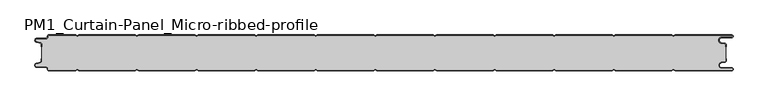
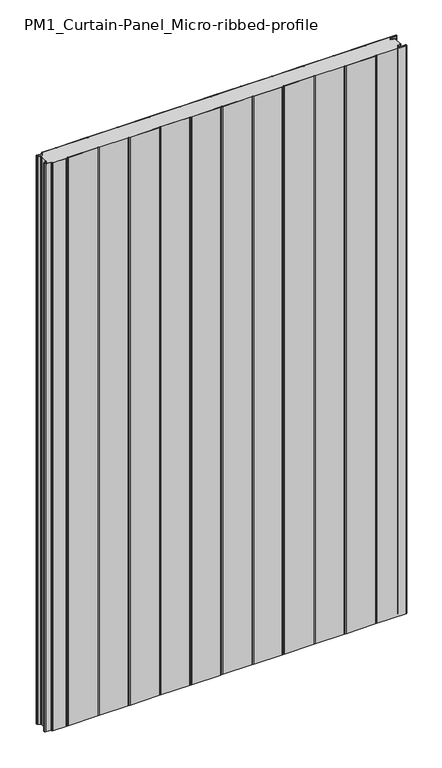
"""IFC4 building model written with IfcOpenShell, lengths in millimetres: plate geometry, PM1_Curtain-Panel_Micro-ribbed-profile : ACH_PM1_Stone-wool-Panel_60M."""

from ifc_helpers import new_model, si_unit, point, frame_2d, origin, origin_with_axes, place, context, project, spatial, polyline, circle_curve, trimmed, segment, composite_curve, outline, extrude, source, transform, mapped, element, save


def pm1_curtain_panel_micro_ribbed_profile_64cba3bc(model_context):
    return source(origin(), model_context, "Body", "SweptSolid", [
        extrude(outline(composite_curve([segment(trimmed(circle_curve(frame_2d((-577.0, -15.878557)), 2.0), [point((-575.0, -15.878557))], [point((-576.5500978, -13.9298169))], True, "CARTESIAN"), True, "CONTINUOUS"), segment(polyline([(-576.5500978, -13.9298169), (-582.7098239, -12.507732)]), True, "CONTINUOUS"), segment(trimmed(circle_curve(frame_2d((-581.9, -9.0)), 3.6), [point((-582.7098239, -12.507732))], [point((-581.9, -5.4))], False, "CARTESIAN"), True, "CONTINUOUS"), segment(polyline([(-581.9, -5.4), (-566.4, -5.4)]), True, "CONTINUOUS"), segment(trimmed(circle_curve(frame_2d((-566.4, -3.4)), 2.0), [point((-566.4, -5.4))], [point((-564.4, -3.4))], True, "CARTESIAN"), True, "CONTINUOUS"), segment(polyline([(-564.4, -3.4), (-564.4, -2.0)]), True, "CONTINUOUS"), segment(trimmed(circle_curve(frame_2d((-562.4, -2.0)), 2.0), [point((-564.4, -2.0))], [point((-562.4, 0.0))], False, "CARTESIAN"), True, "CONTINUOUS"), segment(polyline([(-562.4, 0.0), (-517.0999995, 0.0), (-514.4, -1.5588455), (-511.7000005, 0.0), (-417.0999995, 0.0), (-414.4, -1.5588455), (-411.7000005, 0.0), (-317.0999995, 0.0), (-314.4, -1.5588455), (-311.7000005, 0.0), (-217.0999995, 0.0), (-214.4, -1.5588455), (-211.7000005, 0.0), (-117.0999995, 0.0), (-114.4, -1.5588455), (-111.7000005, 0.0), (-17.0999995, 0.0), (-14.4, -1.5588455), (-11.7000005, 0.0), (82.9000005, 0.0), (85.6, -1.5588455), (88.2999995, 0.0), (182.9000005, 0.0), (185.6, -1.5588455), (188.2999995, 0.0), (282.9000005, 0.0), (285.6, -1.5588455), (288.2999995, 0.0), (382.9000005, 0.0), (385.6, -1.5588455), (388.2999995, 0.0), (482.9000005, 0.0), (485.6, -1.5588455), (488.2999995, 0.0), (583.1, 0.0)]), True, "CONTINUOUS"), segment(trimmed(circle_curve(frame_2d((583.1, -2.5)), 2.5), [point((583.1, 0.0))], [point((583.1, -5.0))], False, "CARTESIAN"), True, "CONTINUOUS"), segment(polyline([(583.1, -5.0), (566.1, -5.0)]), True, "CONTINUOUS"), segment(trimmed(circle_curve(frame_2d((566.1, -9.0)), 4.0), [point((566.1, -5.0))], [point((565.405407, -12.939231))], True, "CARTESIAN"), True, "CONTINUOUS"), segment(polyline([(565.405407, -12.939231), (571.8514855, -14.0758491)]), True, "CONTINUOUS"), segment(trimmed(circle_curve(frame_2d((571.4, -16.6363492)), 2.6), [point((571.8514855, -14.0758491))], [point((574.0, -16.6363492))], False, "CARTESIAN"), True, "CONTINUOUS"), segment(polyline([(574.0, -16.6363492), (574.0, -20.0), (573.2, -20.0), (573.2, -16.6363492)]), True, "CONTINUOUS"), segment(trimmed(circle_curve(frame_2d((571.4, -16.6363492)), 1.8), [point((573.2, -16.6363492))], [point((571.7125669, -14.8636953))], True, "CARTESIAN"), True, "CONTINUOUS"), segment(polyline([(571.7125669, -14.8636953), (565.2664884, -13.7270772)]), True, "CONTINUOUS"), segment(trimmed(circle_curve(frame_2d((566.1, -9.0)), 4.8), [point((565.2664884, -13.7270772))], [point((566.1, -4.2))], False, "CARTESIAN"), True, "CONTINUOUS"), segment(polyline([(566.1, -4.2), (583.1, -4.2)]), True, "CONTINUOUS"), segment(trimmed(circle_curve(frame_2d((583.1, -2.5)), 1.7), [point((583.1, -4.2))], [point((583.1, -0.8))], True, "CARTESIAN"), True, "CONTINUOUS"), segment(polyline([(583.1, -0.8), (488.5143588, -0.8), (485.6, -2.482606), (482.6856412, -0.8), (388.5143588, -0.8), (385.6, -2.482606), (382.6856412, -0.8), (288.5143588, -0.8), (285.6, -2.482606), (282.6856412, -0.8), (188.5143588, -0.8), (185.6, -2.482606), (182.6856412, -0.8), (88.5143588, -0.8), (85.6, -2.482606), (82.6856412, -0.8), (-11.4856412, -0.8), (-14.4, -2.482606), (-17.3143588, -0.8), (-111.4856412, -0.8), (-114.4, -2.482606), (-117.3143588, -0.8), (-211.4856412, -0.8), (-214.4, -2.482606), (-217.3143588, -0.8), (-311.4856412, -0.8), (-314.4, -2.482606), (-317.3143588, -0.8), (-411.4856412, -0.8), (-414.4, -2.482606), (-417.3143588, -0.8), (-511.4856412, -0.8), (-514.4, -2.482606), (-517.3143588, -0.8), (-562.4, -0.8)]), True, "CONTINUOUS"), segment(trimmed(circle_curve(frame_2d((-562.4, -2.0)), 1.2), [point((-562.4, -0.8))], [point((-563.6, -2.0))], True, "CARTESIAN"), True, "CONTINUOUS"), segment(polyline([(-563.6, -2.0), (-563.6, -3.4)]), True, "CONTINUOUS"), segment(trimmed(circle_curve(frame_2d((-566.4, -3.4)), 2.8), [point((-563.6, -3.4))], [point((-566.4, -6.2))], False, "CARTESIAN"), True, "CONTINUOUS"), segment(polyline([(-566.4, -6.2), (-581.9, -6.2)]), True, "CONTINUOUS"), segment(trimmed(circle_curve(frame_2d((-581.9, -9.0)), 2.8), [point((-581.9, -6.2))], [point((-582.529863, -11.7282362))], True, "CARTESIAN"), True, "CONTINUOUS"), segment(polyline([(-582.529863, -11.7282362), (-576.370137, -13.150321)]), True, "CONTINUOUS"), segment(trimmed(circle_curve(frame_2d((-577.0, -15.878557)), 2.8), [point((-576.370137, -13.150321))], [point((-574.2, -15.878557))], False, "CARTESIAN"), True, "CONTINUOUS"), segment(polyline([(-574.2, -15.878557), (-574.2, -20.0), (-575.0, -20.0), (-575.0, -15.878557)]), True, "CONTINUOUS")], self_intersect=False)), origin_with_axes(), (0.0, 0.0, 1.0), 1945.7507136),
        extrude(outline(composite_curve([segment(polyline([(-574.2, -44.1214426), (-574.2, -15.8785573)]), True, "CONTINUOUS"), segment(trimmed(circle_curve(frame_2d((-577.0, -15.8785573)), 2.8), [point((-574.2, -15.8785573))], [point((-576.370137, -13.1503212))], True, "CARTESIAN"), True, "CONTINUOUS"), segment(polyline([(-576.370137, -13.1503212), (-582.5298631, -11.7282362)]), True, "CONTINUOUS"), segment(trimmed(circle_curve(frame_2d((-581.9, -9.0)), 2.8), [point((-582.5298631, -11.7282362))], [point((-581.9, -6.2))], False, "CARTESIAN"), True, "CONTINUOUS"), segment(polyline([(-581.9, -6.2), (-566.4000001, -6.2)]), True, "CONTINUOUS"), segment(trimmed(circle_curve(frame_2d((-566.4000001, -3.4)), 2.8), [point((-566.4000001, -6.2))], [point((-563.6000001, -3.4))], True, "CARTESIAN"), True, "CONTINUOUS"), segment(polyline([(-563.6000001, -3.4), (-563.6000001, -2.0)]), True, "CONTINUOUS"), segment(trimmed(circle_curve(frame_2d((-562.4000001, -2.0)), 1.2), [point((-563.6000001, -2.0))], [point((-562.4000001, -0.8))], False, "CARTESIAN"), True, "CONTINUOUS"), segment(polyline([(-562.4000001, -0.8), (-517.3143589, -0.8), (-514.4000001, -2.482606), (-511.4856412, -0.8), (-417.3143589, -0.8), (-414.4000001, -2.482606), (-411.4856412, -0.8), (-317.3143589, -0.8), (-314.4000001, -2.482606), (-311.4856412, -0.8), (-217.3143589, -0.8), (-214.4000001, -2.482606), (-211.4856412, -0.8), (-117.3143589, -0.8), (-114.4000001, -2.482606), (-111.4856412, -0.8), (-17.3143589, -0.8), (-14.4000001, -2.482606), (-11.4856412, -0.8), (82.6856411, -0.8), (85.5999999, -2.482606), (88.5143588, -0.8), (182.6856411, -0.8), (185.5999999, -2.482606), (188.5143588, -0.8), (282.6856411, -0.8), (285.5999999, -2.482606), (288.5143588, -0.8), (382.6856411, -0.8), (385.5999999, -2.482606), (388.5143588, -0.8), (482.6856411, -0.8), (485.6, -2.482606), (488.5143588, -0.8), (583.1, -0.8)]), True, "CONTINUOUS"), segment(trimmed(circle_curve(frame_2d((583.1, -2.5)), 1.7), [point((583.1, -0.8))], [point((583.1, -4.2))], False, "CARTESIAN"), True, "CONTINUOUS"), segment(polyline([(583.1, -4.2), (566.1, -4.2)]), True, "CONTINUOUS"), segment(trimmed(circle_curve(frame_2d((566.1, -9.0)), 4.8), [point((566.1, -4.2))], [point((565.2664883, -13.7270771))], True, "CARTESIAN"), True, "CONTINUOUS"), segment(polyline([(565.2664883, -13.7270771), (571.7125668, -14.8636953)]), True, "CONTINUOUS"), segment(trimmed(circle_curve(frame_2d((571.4, -16.6363492)), 1.8), [point((571.7125668, -14.8636953))], [point((573.2, -16.6363492))], False, "CARTESIAN"), True, "CONTINUOUS"), segment(polyline([(573.2, -16.6363492), (573.2, -43.3636508)]), True, "CONTINUOUS"), segment(trimmed(circle_curve(frame_2d((571.4, -43.3636508)), 1.8), [point((573.2, -43.3636508))], [point((571.7125668, -45.1363047))], False, "CARTESIAN"), True, "CONTINUOUS"), segment(polyline([(571.7125668, -45.1363047), (565.2664883, -46.2729229)]), True, "CONTINUOUS"), segment(trimmed(circle_curve(frame_2d((566.1, -51.0)), 4.8), [point((565.2664883, -46.2729229))], [point((566.1, -55.8))], True, "CARTESIAN"), True, "CONTINUOUS"), segment(polyline([(566.1, -55.8), (583.1, -55.8)]), True, "CONTINUOUS"), segment(trimmed(circle_curve(frame_2d((583.1, -57.5)), 1.7), [point((583.1, -55.8))], [point((583.1, -59.2))], False, "CARTESIAN"), True, "CONTINUOUS"), segment(polyline([(583.1, -59.2), (488.5143588, -59.2), (485.6, -57.517394), (482.6856411, -59.2), (388.5143588, -59.2), (385.5999999, -57.517394), (382.6856411, -59.2), (288.5143588, -59.2), (285.5999999, -57.517394), (282.6856411, -59.2), (188.5143588, -59.2), (185.5999999, -57.517394), (182.6856411, -59.2), (88.5143588, -59.2), (85.5999999, -57.517394), (82.6856411, -59.2), (-11.4856412, -59.2), (-14.4000001, -57.517394), (-17.3143589, -59.2), (-111.4856412, -59.2), (-114.4000001, -57.517394), (-117.3143589, -59.2), (-211.4856412, -59.2), (-214.4000001, -57.517394), (-217.3143589, -59.2), (-311.4856412, -59.2), (-314.4000001, -57.517394), (-317.3143589, -59.2), (-411.4856412, -59.2), (-414.4000001, -57.517394), (-417.3143589, -59.2), (-511.4856412, -59.2), (-514.4000001, -57.517394), (-517.3143589, -59.2), (-562.4000001, -59.2)]), True, "CONTINUOUS"), segment(trimmed(circle_curve(frame_2d((-562.4000001, -58.0)), 1.2), [point((-562.4000001, -59.2))], [point((-563.6000001, -58.0))], False, "CARTESIAN"), True, "CONTINUOUS"), segment(polyline([(-563.6000001, -58.0), (-563.6000001, -56.6)]), True, "CONTINUOUS"), segment(trimmed(circle_curve(frame_2d((-566.4000001, -56.6)), 2.8), [point((-563.6000001, -56.6))], [point((-566.4000001, -53.8))], True, "CARTESIAN"), True, "CONTINUOUS"), segment(polyline([(-566.4000001, -53.8), (-581.9, -53.8)]), True, "CONTINUOUS"), segment(trimmed(circle_curve(frame_2d((-581.9, -51.0)), 2.8), [point((-581.9, -53.8))], [point((-582.5298631, -48.2717638))], False, "CARTESIAN"), True, "CONTINUOUS"), segment(polyline([(-582.5298631, -48.2717638), (-576.370137, -46.8496788)]), True, "CONTINUOUS"), segment(trimmed(circle_curve(frame_2d((-577.0, -44.1214426)), 2.8), [point((-576.370137, -46.8496788))], [point((-574.2, -44.1214426))], True, "CARTESIAN"), True, "CONTINUOUS")], self_intersect=False)), origin_with_axes(), (0.0, 0.0, 1.0), 1945.7507136),
        extrude(outline(composite_curve([segment(polyline([(-575.0, -44.121443), (-575.0, -40.0), (-574.2, -40.0), (-574.2, -44.121443)]), True, "CONTINUOUS"), segment(trimmed(circle_curve(frame_2d((-577.0, -44.121443)), 2.8), [point((-574.2, -44.121443))], [point((-576.370137, -46.8496792))], False, "CARTESIAN"), True, "CONTINUOUS"), segment(polyline([(-576.370137, -46.8496792), (-582.529863, -48.271764)]), True, "CONTINUOUS"), segment(trimmed(circle_curve(frame_2d((-581.9, -51.0)), 2.8), [point((-582.529863, -48.271764))], [point((-581.9, -53.8))], True, "CARTESIAN"), True, "CONTINUOUS"), segment(polyline([(-581.9, -53.8), (-566.4, -53.8)]), True, "CONTINUOUS"), segment(trimmed(circle_curve(frame_2d((-566.4, -56.6)), 2.8), [point((-566.4, -53.8))], [point((-563.6, -56.6))], False, "CARTESIAN"), True, "CONTINUOUS"), segment(polyline([(-563.6, -56.6), (-563.6, -58.0)]), True, "CONTINUOUS"), segment(trimmed(circle_curve(frame_2d((-562.4, -58.0)), 1.2), [point((-563.6, -58.0))], [point((-562.4, -59.2))], True, "CARTESIAN"), True, "CONTINUOUS"), segment(polyline([(-562.4, -59.2), (-517.3143588, -59.2), (-514.4, -57.517394), (-511.4856412, -59.2), (-417.3143588, -59.2), (-414.4, -57.517394), (-411.4856412, -59.2), (-317.3143588, -59.2), (-314.4, -57.517394), (-311.4856412, -59.2), (-217.3143588, -59.2), (-214.4, -57.517394), (-211.4856412, -59.2), (-117.3143588, -59.2), (-114.4, -57.517394), (-111.4856412, -59.2), (-17.3143588, -59.2), (-14.4, -57.517394), (-11.4856412, -59.2), (82.6856412, -59.2), (85.6, -57.517394), (88.5143588, -59.2), (182.6856412, -59.2), (185.6, -57.517394), (188.5143588, -59.2), (282.6856412, -59.2), (285.6, -57.517394), (288.5143588, -59.2), (382.6856412, -59.2), (385.6, -57.517394), (388.5143588, -59.2), (482.6856412, -59.2), (485.6, -57.517394), (488.5143588, -59.2), (583.1, -59.2)]), True, "CONTINUOUS"), segment(trimmed(circle_curve(frame_2d((583.1, -57.5)), 1.7), [point((583.1, -59.2))], [point((583.1, -55.8))], True, "CARTESIAN"), True, "CONTINUOUS"), segment(polyline([(583.1, -55.8), (566.1, -55.8)]), True, "CONTINUOUS"), segment(trimmed(circle_curve(frame_2d((566.1, -51.0)), 4.8), [point((566.1, -55.8))], [point((565.2664884, -46.2729229))], False, "CARTESIAN"), True, "CONTINUOUS"), segment(polyline([(565.2664884, -46.2729229), (571.7125669, -45.1363047)]), True, "CONTINUOUS"), segment(trimmed(circle_curve(frame_2d((571.4, -43.3636508)), 1.8), [point((571.7125669, -45.1363047))], [point((573.2, -43.3636508))], True, "CARTESIAN"), True, "CONTINUOUS"), segment(polyline([(573.2, -43.3636508), (573.2, -40.0), (574.0, -40.0), (574.0, -43.3636508)]), True, "CONTINUOUS"), segment(trimmed(circle_curve(frame_2d((571.4, -43.3636508)), 2.6), [point((574.0, -43.3636508))], [point((571.8514855, -45.9241509))], False, "CARTESIAN"), True, "CONTINUOUS"), segment(polyline([(571.8514855, -45.9241509), (565.405407, -47.060769)]), True, "CONTINUOUS"), segment(trimmed(circle_curve(frame_2d((566.1, -51.0)), 4.0), [point((565.405407, -47.060769))], [point((566.1, -55.0))], True, "CARTESIAN"), True, "CONTINUOUS"), segment(polyline([(566.1, -55.0), (583.1, -55.0)]), True, "CONTINUOUS"), segment(trimmed(circle_curve(frame_2d((583.1, -57.5)), 2.5), [point((583.1, -55.0))], [point((583.1, -60.0))], False, "CARTESIAN"), True, "CONTINUOUS"), segment(polyline([(583.1, -60.0), (488.2999995, -60.0), (485.6, -58.4411545), (482.9000005, -60.0), (388.2999995, -60.0), (385.6, -58.4411545), (382.9000005, -60.0), (288.2999995, -60.0), (285.6, -58.4411545), (282.9000005, -60.0), (188.2999995, -60.0), (185.6, -58.4411545), (182.9000005, -60.0), (88.2999995, -60.0), (85.6, -58.4411545), (82.9000005, -60.0), (-11.7000005, -60.0), (-14.4, -58.4411545), (-17.0999995, -60.0), (-111.7000005, -60.0), (-114.4, -58.4411545), (-117.0999995, -60.0), (-211.7000005, -60.0), (-214.4, -58.4411545), (-217.0999995, -60.0), (-311.7000005, -60.0), (-314.4, -58.4411545), (-317.0999995, -60.0), (-411.7000005, -60.0), (-414.4, -58.4411545), (-417.0999995, -60.0), (-511.7000005, -60.0), (-514.4, -58.4411545), (-517.0999995, -60.0), (-562.4, -60.0)]), True, "CONTINUOUS"), segment(trimmed(circle_curve(frame_2d((-562.4, -58.0)), 2.0), [point((-562.4, -60.0))], [point((-564.4, -58.0))], False, "CARTESIAN"), True, "CONTINUOUS"), segment(polyline([(-564.4, -58.0), (-564.4, -56.6)]), True, "CONTINUOUS"), segment(trimmed(circle_curve(frame_2d((-566.4, -56.6)), 2.0), [point((-564.4, -56.6))], [point((-566.4, -54.6))], True, "CARTESIAN"), True, "CONTINUOUS"), segment(polyline([(-566.4, -54.6), (-581.9, -54.6)]), True, "CONTINUOUS"), segment(trimmed(circle_curve(frame_2d((-581.9, -51.0)), 3.6), [point((-581.9, -54.6))], [point((-582.7098239, -47.4922678))], False, "CARTESIAN"), True, "CONTINUOUS"), segment(polyline([(-582.7098239, -47.4922678), (-576.5500979, -46.070183)]), True, "CONTINUOUS"), segment(trimmed(circle_curve(frame_2d((-577.0, -44.121443)), 2.0), [point((-576.5500979, -46.070183))], [point((-575.0, -44.121443))], True, "CARTESIAN"), True, "CONTINUOUS")], self_intersect=False)), origin_with_axes(), (0.0, 0.0, 1.0), 1945.7507136),
    ])


if __name__ == "__main__":
    model = new_model("IFC4")
    model_context = context("Model", 3, world=origin())
    ifc_project = project(units=[si_unit("LENGTHUNIT", "METRE", prefix="MILLI")], contexts=[model_context])
    site = spatial("IfcSite", under=ifc_project)
    building = spatial("IfcBuilding", under=site)
    placement = place(None, origin())
    pm1_curtain_panel_micro_ribbed_profile_shape = pm1_curtain_panel_micro_ribbed_profile_64cba3bc(model_context)
    element("IfcPlate", 1, ObjectType="PM1_Curtain-Panel_Micro-ribbed-profile : ACH_PM1_Stone-wool-Panel_60M", at=placement, inside=building, context=model_context, shape_type="MappedRepresentation", body=[
        mapped(pm1_curtain_panel_micro_ribbed_profile_shape, transform((0.0, 0.0, 0.0), x_axis=(1.0, 0.0, 0.0), y_axis=(0.0, 1.0, 0.0), z_axis=(0.0, 0.0, 1.0))),
    ])
    save(model, "model.ifc")
